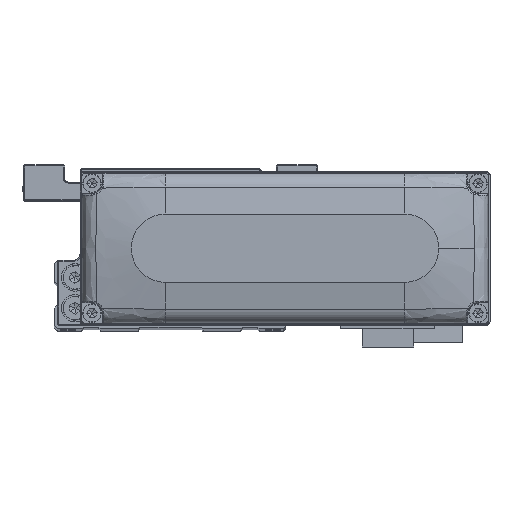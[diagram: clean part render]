
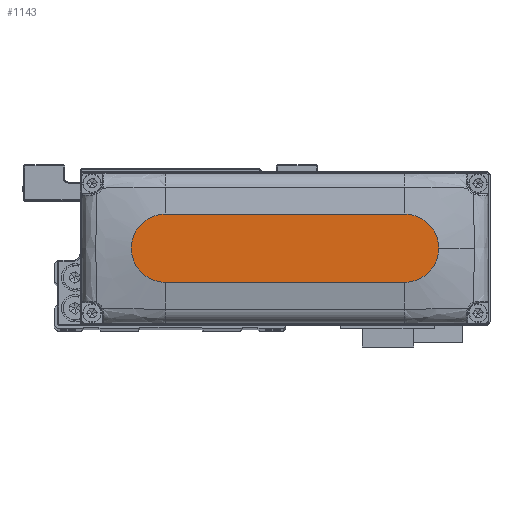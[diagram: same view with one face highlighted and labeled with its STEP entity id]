
A CAD part, top view. The second image highlights one B-rep face of the part: STEP entity #1143.
In plain terms, the highlighted planar face has unit normal (0, 0, 1).
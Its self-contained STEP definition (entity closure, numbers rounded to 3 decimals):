
#397 = ORIENTED_EDGE ( 'NONE', *, *, #17937, .T. ) ;
#1143 = ADVANCED_FACE ( 'NONE', ( #5978 ), #17968, .T. ) ;
#2314 = DIRECTION ( 'NONE',  ( 1., 0., 0. ) ) ;
#2365 = CIRCLE ( 'NONE', #24316, 10. ) ;
#2564 = DIRECTION ( 'NONE',  ( 1., 0., 0. ) ) ;
#3067 = DIRECTION ( 'NONE',  ( 0., 0., 1. ) ) ;
#4267 = CARTESIAN_POINT ( 'NONE',  ( -35., 10., 28. ) ) ;
#4431 = DIRECTION ( 'NONE',  ( 1., 0., 0. ) ) ;
#5485 = AXIS2_PLACEMENT_3D ( 'NONE', #19364, #31320, #4431 ) ;
#5571 = AXIS2_PLACEMENT_3D ( 'NONE', #17234, #29194, #2314 ) ;
#5767 = EDGE_CURVE ( 'NONE', #18959, #22530, #5904, .T. ) ;
#5904 = LINE ( 'NONE', #17896, #31177 ) ;
#5978 = FACE_OUTER_BOUND ( 'NONE', #21150, .T. ) ;
#8176 = VERTEX_POINT ( 'NONE', #27588 ) ;
#11851 = AXIS2_PLACEMENT_3D ( 'NONE', #29941, #3067, #15034 ) ;
#12457 = ORIENTED_EDGE ( 'NONE', *, *, #37495, .T. ) ;
#13087 = LINE ( 'NONE', #25067, #30032 ) ;
#15034 = DIRECTION ( 'NONE',  ( 1., 0., 0. ) ) ;
#17234 = CARTESIAN_POINT ( 'NONE',  ( -35., 0., 28. ) ) ;
#17482 = CARTESIAN_POINT ( 'NONE',  ( 35., 0., 28. ) ) ;
#17639 = CARTESIAN_POINT ( 'NONE',  ( 35., -10., 28. ) ) ;
#17896 = CARTESIAN_POINT ( 'NONE',  ( -35., -10., 28. ) ) ;
#17937 = EDGE_CURVE ( 'NONE', #22530, #8176, #2365, .T. ) ;
#17968 = PLANE ( 'NONE',  #11851 ) ;
#18959 = VERTEX_POINT ( 'NONE', #31021 ) ;
#19364 = CARTESIAN_POINT ( 'NONE',  ( 35., 0., 28. ) ) ;
#19911 = ORIENTED_EDGE ( 'NONE', *, *, #5767, .T. ) ;
#20541 = ORIENTED_EDGE ( 'NONE', *, *, #21506, .T. ) ;
#21150 = EDGE_LOOP ( 'NONE', ( #12457, #21497, #19911, #397, #20541 ) ) ;
#21497 = ORIENTED_EDGE ( 'NONE', *, *, #37230, .T. ) ;
#21506 = EDGE_CURVE ( 'NONE', #8176, #32120, #22440, .T. ) ;
#22038 = CARTESIAN_POINT ( 'NONE',  ( 35., 10., 28. ) ) ;
#22440 = CIRCLE ( 'NONE', #5485, 10. ) ;
#22504 = CIRCLE ( 'NONE', #5571, 10. ) ;
#22530 = VERTEX_POINT ( 'NONE', #17639 ) ;
#24316 = AXIS2_PLACEMENT_3D ( 'NONE', #17482, #29445, #2564 ) ;
#25067 = CARTESIAN_POINT ( 'NONE',  ( -35., 10., 28. ) ) ;
#27588 = CARTESIAN_POINT ( 'NONE',  ( 45., 0., 28. ) ) ;
#29194 = DIRECTION ( 'NONE',  ( 0., 0., 1. ) ) ;
#29445 = DIRECTION ( 'NONE',  ( 0., 0., 1. ) ) ;
#29860 = DIRECTION ( 'NONE',  ( 1., 0., 0. ) ) ;
#29941 = CARTESIAN_POINT ( 'NONE',  ( 0., 0., 28. ) ) ;
#30032 = VECTOR ( 'NONE', #37020, 1000. ) ;
#31021 = CARTESIAN_POINT ( 'NONE',  ( -35., -10., 28. ) ) ;
#31177 = VECTOR ( 'NONE', #29860, 1000. ) ;
#31320 = DIRECTION ( 'NONE',  ( 0., 0., 1. ) ) ;
#32120 = VERTEX_POINT ( 'NONE', #22038 ) ;
#32371 = VERTEX_POINT ( 'NONE', #4267 ) ;
#37020 = DIRECTION ( 'NONE',  ( -1., 0., 0. ) ) ;
#37230 = EDGE_CURVE ( 'NONE', #32371, #18959, #22504, .T. ) ;
#37495 = EDGE_CURVE ( 'NONE', #32120, #32371, #13087, .T. ) ;
